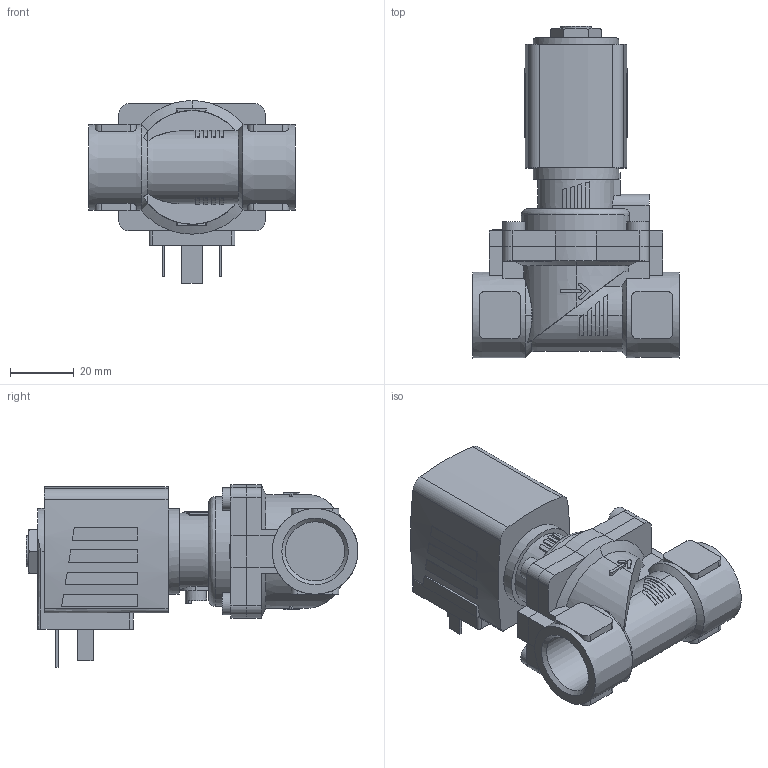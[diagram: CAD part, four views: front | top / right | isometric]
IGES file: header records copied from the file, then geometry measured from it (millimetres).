
Start section: Data from Parasolid IGES Translator 26.0.171, Copyright(c) 2006 Siemens PLM Software. All Rights Reserved.
Global section: file name: 6281-248731-2_2-Way_Solenoid_Valve__Servo-assisted__General_Purpose.igs; native system: By Siemens PLM Incorporated; preprocessor: XPlus GENERIC/IGES 26.0.171; author: Noname; organization: Noname; date: 20240514.164623; units: millimetre
Bounding box: 65 x 104.5 x 57.5 mm (x, y, z)
Surface area: 29403.8 mm2 (no closed solid volume)
Topology: 0 solids, 0 shells, 383 faces, 2032 edges, 2025 vertices
Faces by surface type: extrusion 250, revolution 133
